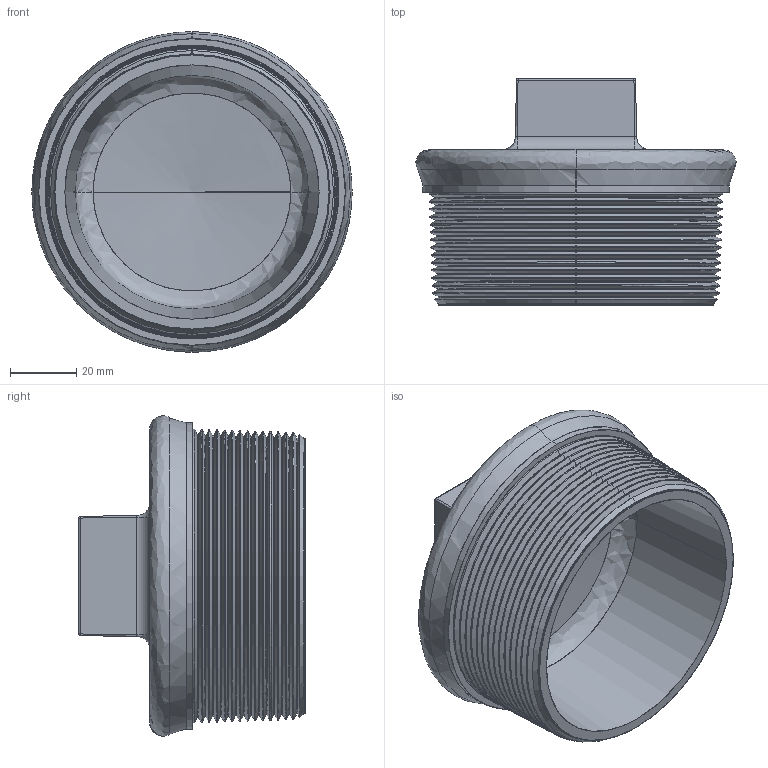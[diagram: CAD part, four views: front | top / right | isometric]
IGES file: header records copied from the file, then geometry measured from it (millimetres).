
Start section: SolidWorks IGES file using analytic representation for surfaces
Global section: file name: C:\Users\Joel Rosa\Desktop\Tubulação\12-03-OK\12-03-012.IGS; native system: SolidWorks 2011; preprocessor: SolidWorks 2011; author: Joel Rosa; date: 121203.234924; units: millimetre
Bounding box: 96.74 x 68.5 x 96.79 mm (x, y, z)
Surface area: 44749 mm2 (no closed solid volume)
Topology: 0 solids, 0 shells, 275 faces, 2448 edges, 2446 vertices
Faces by surface type: bspline 189, revolution 86
